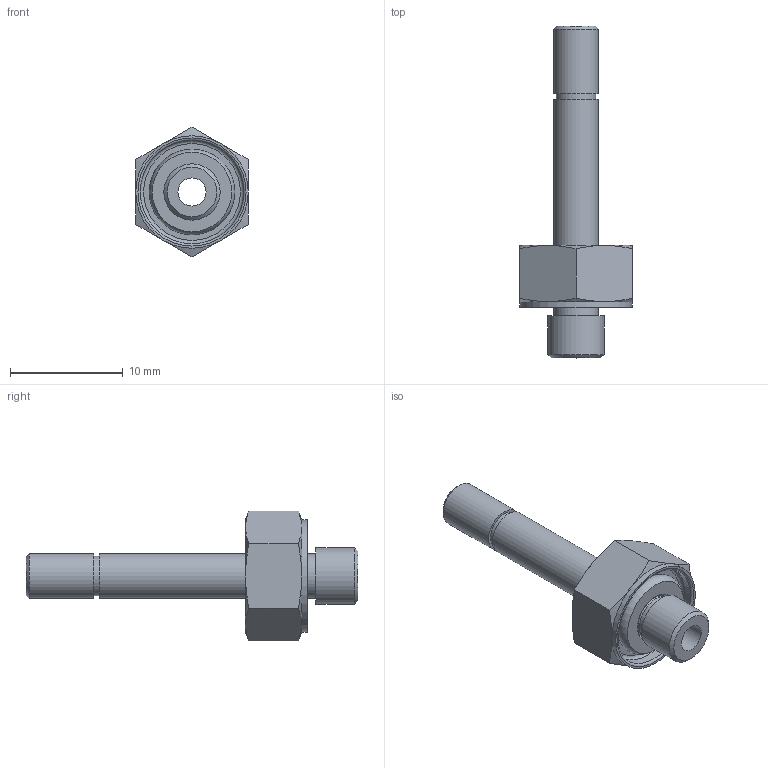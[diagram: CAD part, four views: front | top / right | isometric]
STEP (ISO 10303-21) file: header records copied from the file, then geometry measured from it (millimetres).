
FILE_DESCRIPTION(/* description */ (''),/* implementation_level */ '2;1');
FILE_NAME(/* name */ 'LXH16 0004 M5.stp',/* time_stamp */ '2026-04-29T15:27:06+02:00',/* author */ ('freju'),/* organization */ (''),/* preprocessor_version */ 'ST-DEVELOPER v20.1',/* originating_system */ 'Autodesk Inventor 2026',/* authorisation */ '');
FILE_SCHEMA (('AUTOMOTIVE_DESIGN { 1 0 10303 214 3 1 1 }'));
Length unit declared in the file: millimetre
Products named in the file (4): LXH16 0004 M5; LXH16 0004 M5_1; O-Ring; ISO 3601-1 - A 0040 G
Assembly tree (3 placements, depth 3):
  LXH16 0004 M5
    LXH16 0004 M5_1
    O-Ring
      ISO 3601-1 - A 0040 G
Bounding box: 10 x 29.5 x 11.55 mm (x, y, z)
Volume: 621 mm3; surface area: 1052.6 mm2
Topology: 2 solids, 2 shells, 46 faces, 92 edges, 57 vertices
Faces by surface type: plane 17, cone 14, cylinder 9, torus 6
Full cylindrical faces by diameter (mm): 2.5 x1, 3.5 x1, 4 x4, 5 x1, 9.2 x1, 10 x1
Entity records: 1329 total; most frequent: CARTESIAN_POINT 250, DIRECTION 225, ORIENTED_EDGE 184, AXIS2_PLACEMENT_3D 104, EDGE_CURVE 92, EDGE_LOOP 57, VERTEX_POINT 57, CIRCLE 51
